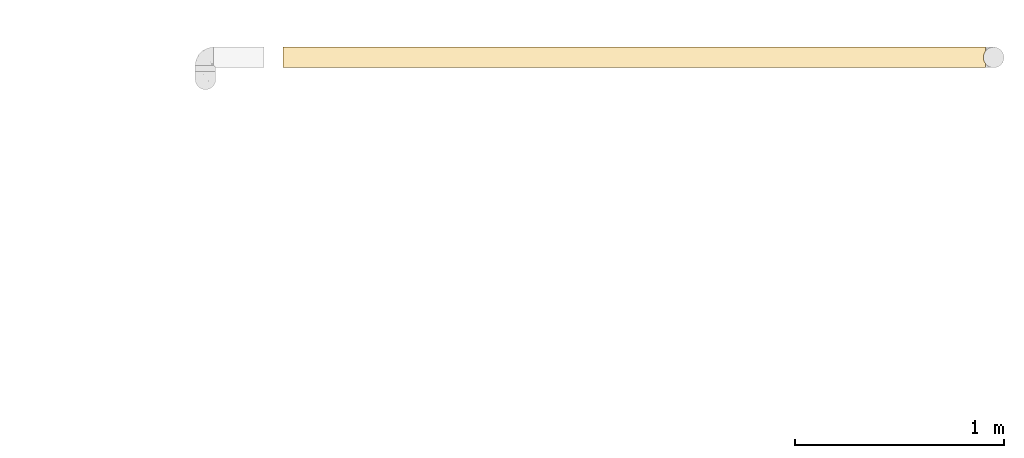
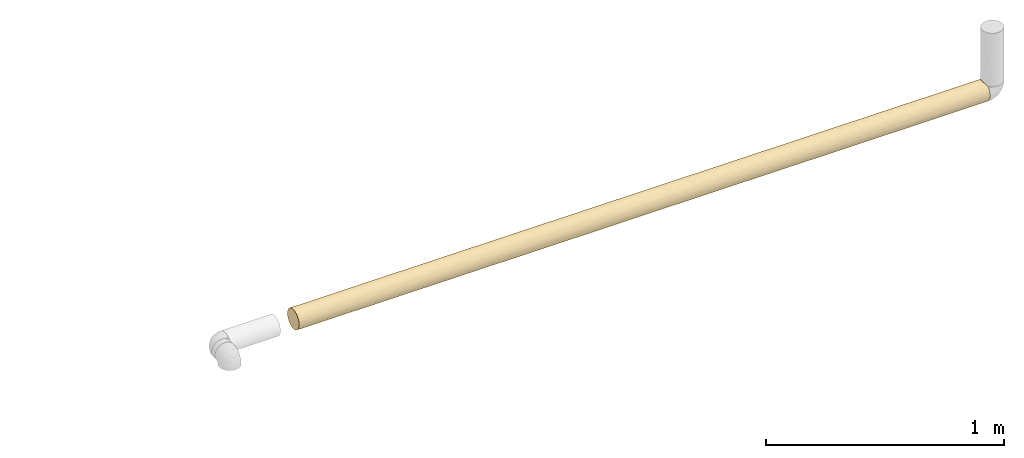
# One storey, part 1 of 6: 1 covering.
"""IFC2X3 building model written with IfcOpenShell, lengths in millimetres."""

from ifc_helpers import new_model, entity, si_unit, converted_unit, derived_unit, direction, frame, origin, place, context, subcontext, project, spatial, faceted_brep, material, element, save


model = new_model("IFC2X3")

# Units and contexts
model_context = context("Model", 3, precision=0.01, world=origin(), true_north=direction((6.123031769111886e-17, 1.0)))
body_context = subcontext(model_context, "Body", "Model", "MODEL_VIEW")
ifc_project = project(units=[si_unit("LENGTHUNIT", "METRE", prefix="MILLI"), si_unit("AREAUNIT", "SQUARE_METRE"), si_unit("VOLUMEUNIT", "CUBIC_METRE"), converted_unit("PLANEANGLEUNIT", "DEGREE", entity("IfcRatioMeasure", 0.017453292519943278), si_unit("PLANEANGLEUNIT", "RADIAN"), dimensions=[0, 0, 0, 0, 0, 0, 0]), si_unit("MASSUNIT", "GRAM", prefix="KILO"), derived_unit("MASSDENSITYUNIT", [(si_unit("MASSUNIT", "GRAM", prefix="KILO"), 1), (si_unit("LENGTHUNIT", "METRE"), -3)]), derived_unit("IONCONCENTRATIONUNIT", [(si_unit("MASSUNIT", "GRAM", prefix="KILO"), 1), (si_unit("LENGTHUNIT", "METRE"), -3)]), derived_unit("MOMENTOFINERTIAUNIT", [(si_unit("LENGTHUNIT", "METRE"), 4)]), si_unit("TIMEUNIT", "SECOND"), si_unit("FREQUENCYUNIT", "HERTZ"), si_unit("THERMODYNAMICTEMPERATUREUNIT", "DEGREE_CELSIUS"), derived_unit("THERMALTRANSMITTANCEUNIT", [(si_unit("MASSUNIT", "GRAM", prefix="KILO"), 1), (si_unit("THERMODYNAMICTEMPERATUREUNIT", "KELVIN"), -1), (si_unit("TIMEUNIT", "SECOND"), -3)]), derived_unit("THERMALCONDUCTANCEUNIT", [(si_unit("MASSUNIT", "GRAM", prefix="KILO"), 1), (si_unit("THERMODYNAMICTEMPERATUREUNIT", "KELVIN"), -1), (si_unit("TIMEUNIT", "SECOND"), -3), (si_unit("LENGTHUNIT", "METRE"), 1)]), derived_unit("VOLUMETRICFLOWRATEUNIT", [(si_unit("LENGTHUNIT", "METRE"), 3), (si_unit("TIMEUNIT", "SECOND"), -1)]), derived_unit("MASSFLOWRATEUNIT", [(si_unit("MASSUNIT", "GRAM", prefix="KILO"), 1), (si_unit("TIMEUNIT", "SECOND"), -1)]), derived_unit("ROTATIONALFREQUENCYUNIT", [(si_unit("TIMEUNIT", "SECOND"), -1)]), si_unit("ELECTRICCURRENTUNIT", "AMPERE"), si_unit("ELECTRICVOLTAGEUNIT", "VOLT"), si_unit("POWERUNIT", "WATT"), si_unit("FORCEUNIT", "NEWTON", prefix="KILO"), si_unit("ILLUMINANCEUNIT", "LUX"), si_unit("LUMINOUSFLUXUNIT", "LUMEN"), si_unit("LUMINOUSINTENSITYUNIT", "CANDELA"), derived_unit("USERDEFINED", [(si_unit("MASSUNIT", "GRAM", prefix="KILO"), -1), (si_unit("LENGTHUNIT", "METRE"), -2), (si_unit("TIMEUNIT", "SECOND"), 3), (si_unit("LUMINOUSFLUXUNIT", "LUMEN"), 1)]), derived_unit("USERDEFINED", [(si_unit("MASSUNIT", "GRAM", prefix="KILO"), 1), (si_unit("TIMEUNIT", "SECOND"), -3), (si_unit("LENGTHUNIT", "METRE"), 3), (si_unit("ELECTRICCURRENTUNIT", "AMPERE"), -2)]), derived_unit("SOUNDPOWERUNIT", [(si_unit("MASSUNIT", "GRAM", prefix="KILO"), 1), (si_unit("TIMEUNIT", "SECOND"), -3), (si_unit("LENGTHUNIT", "METRE"), 2)]), derived_unit("SOUNDPRESSUREUNIT", [(si_unit("MASSUNIT", "GRAM", prefix="KILO"), 1), (si_unit("LENGTHUNIT", "METRE"), -1), (si_unit("TIMEUNIT", "SECOND"), -2)]), derived_unit("LINEARVELOCITYUNIT", [(si_unit("LENGTHUNIT", "METRE"), 1), (si_unit("TIMEUNIT", "SECOND"), -1)]), si_unit("PRESSUREUNIT", "PASCAL"), derived_unit("USERDEFINED", [(si_unit("MASSUNIT", "GRAM", prefix="KILO"), 1), (si_unit("LENGTHUNIT", "METRE"), -2), (si_unit("TIMEUNIT", "SECOND"), -2)]), derived_unit("LINEARFORCEUNIT", [(si_unit("MASSUNIT", "GRAM", prefix="KILO"), 1), (si_unit("TIMEUNIT", "SECOND"), -2)]), derived_unit("PLANARFORCEUNIT", [(si_unit("MASSUNIT", "GRAM", prefix="KILO"), 1), (si_unit("LENGTHUNIT", "METRE"), -1), (si_unit("TIMEUNIT", "SECOND"), -2)]), derived_unit("SPECIFICHEATCAPACITYUNIT", [(si_unit("THERMODYNAMICTEMPERATUREUNIT", "KELVIN"), -1), (si_unit("LENGTHUNIT", "METRE"), 2), (si_unit("TIMEUNIT", "SECOND"), -2)]), derived_unit("HEATINGVALUEUNIT", [(si_unit("LENGTHUNIT", "METRE"), 2), (si_unit("TIMEUNIT", "SECOND"), -2)]), derived_unit("VAPORPERMEABILITYUNIT", [(si_unit("LENGTHUNIT", "METRE"), -1), (si_unit("TIMEUNIT", "SECOND"), 1)]), derived_unit("DYNAMICVISCOSITYUNIT", [(si_unit("MASSUNIT", "GRAM", prefix="KILO"), 1), (si_unit("TIMEUNIT", "SECOND"), -1), (si_unit("LENGTHUNIT", "METRE"), -1)]), derived_unit("THERMALEXPANSIONCOEFFICIENTUNIT", [(si_unit("THERMODYNAMICTEMPERATUREUNIT", "KELVIN"), -1)]), derived_unit("MODULUSOFELASTICITYUNIT", [(si_unit("MASSUNIT", "GRAM", prefix="KILO"), 1), (si_unit("LENGTHUNIT", "METRE"), -1), (si_unit("TIMEUNIT", "SECOND"), -2)]), derived_unit("ISOTHERMALMOISTURECAPACITYUNIT", [(si_unit("LENGTHUNIT", "METRE"), 3), (si_unit("MASSUNIT", "GRAM", prefix="KILO"), -1)]), derived_unit("MOISTUREDIFFUSIVITYUNIT", [(si_unit("TIMEUNIT", "SECOND"), -1), (si_unit("LENGTHUNIT", "METRE"), 2)])], contexts=[model_context])

# Site, building, storey
site_placement = place(None, origin())
site = spatial("IfcSite", under=ifc_project, at=site_placement, Name="Default", CompositionType="ELEMENT")
building_placement = place(site_placement, origin())
building = spatial("IfcBuilding", under=site, at=building_placement, CompositionType="ELEMENT")
storey_placement = place(building_placement, frame((0.0, 0.0, 3000.0)))
storey = spatial("IfcBuildingStorey", under=building, at=storey_placement, Name="Niveau 1", CompositionType="ELEMENT", Elevation=3000.0)

# Covering
ifc_material = material(Name="Isolation - Laine minérale")
covering_placement = place(storey_placement, frame((-10002.492284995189, 9976.120352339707, 0.7252722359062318)))
element("IfcCovering", 1, at=covering_placement, inside=storey, material=ifc_material, Name="Isolation des canalisations:Laine minérale", ObjectType="Isolation des canalisations:Laine minérale", PredefinedType="INSULATION", context=body_context, shape_type="Brep", body=[
    faceted_brep([(0.0, 3.2693363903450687, -63.44105192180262), (0.0, 1.5952722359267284, -50.72527223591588), (0.0, 3.2693363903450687, -38.00949255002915), (0.0, 8.177444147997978, -26.160272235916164), (0.0, 15.98511607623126, -15.985116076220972), (0.0, 26.160272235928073, -8.177444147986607), (0.0, 38.00949255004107, -3.26933639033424), (0.0, 50.72527223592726, -1.5952722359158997), (0.0, 63.44105192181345, -3.26933639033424), (0.0, 75.29027223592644, -8.177444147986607), (0.0, 85.46542839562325, -15.985116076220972), (0.0, 93.27310032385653, -26.160272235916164), (0.0, 98.18120808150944, -38.00949255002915), (0.0, 99.85527223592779, -50.72527223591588), (0.0, 98.18120808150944, -63.44105192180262), (0.0, 93.27310032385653, -75.29027223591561), (0.0, 85.46542839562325, -85.4654283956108), (0.0, 75.29027223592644, -93.27310032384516), (0.0, 63.44105192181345, -98.18120808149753), (0.0, 50.72527223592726, -99.85527223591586), (0.0, 38.00949255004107, -98.18120808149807), (0.0, 26.160272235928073, -93.27310032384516), (0.0, 15.98511607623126, -85.4654283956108), (0.0, 8.177444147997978, -75.29027223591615), (3355.3199719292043, 2.7935963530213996, -39.94049838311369), (3355.3199719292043, 1.5952722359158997, -50.72527223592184), (3355.3199719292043, 3.26933639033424, -63.44105192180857), (3355.3199719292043, 8.17744414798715, -75.2902722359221), (3355.3199719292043, 15.98511607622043, -85.46542839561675), (3355.3199719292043, 26.160272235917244, -93.27310032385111), (3355.3199719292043, 38.00949255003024, -98.18120808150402), (3355.3199719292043, 50.72527223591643, -99.85527223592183), (3355.3199719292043, 63.44105192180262, -98.18120808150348), (3355.3199719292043, 75.29027223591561, -93.27310032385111), (3355.3199719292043, 85.46542839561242, -85.46542839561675), (3355.3199719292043, 93.2731003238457, -75.29027223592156), (3355.3199719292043, 98.18120808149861, -63.44105192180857), (3355.3199719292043, 99.85527223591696, -50.72527223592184), (3355.3199719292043, 98.65694811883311, -39.94049838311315), (3355.3199719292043, 95.1273794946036, -29.696487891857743), (3355.3199719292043, 89.43799982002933, -20.47495615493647), (3355.3199719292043, 81.86619226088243, -12.725272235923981), (3355.3199719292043, 19.58435221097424, -12.725272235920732), (3355.3199719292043, 12.01254465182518, -20.47495615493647), (3355.3199719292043, 6.3231649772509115, -29.696487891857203), (3065.9697336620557, 69.52650923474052, -96.11547368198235), (3064.9800468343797, 59.13420623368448, -99.13030016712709), (2773.904925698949, 60.143988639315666, -98.94398936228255), (978.9733141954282, 99.85527223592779, -50.72527223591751), (1397.3733435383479, 99.85527223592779, -50.72527223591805), (1188.1733424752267, 97.30464236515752, -66.34958592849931), (2865.8333270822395, 50.72527223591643, -99.85527223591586), (290.33992685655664, 59.13420622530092, -99.13030016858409), (489.48700988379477, 50.72527223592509, -99.85527223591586), (401.3362836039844, 80.6337211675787, -89.70272190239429), (333.49343664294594, 89.70272176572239, -80.63372134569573), (3021.8265378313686, 89.7027218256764, -80.63372126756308), (289.3502405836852, 69.52650922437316, -96.11547368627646), (1003.874179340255, 89.70272168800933, -80.6337214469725), (821.1346217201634, 80.6091913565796, -89.72153203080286), (668.6838075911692, 88.17974534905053, -82.52023007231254), (634.6935028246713, 69.52650918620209, -96.11547370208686), (2726.01966091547, 91.46149100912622, -78.19011121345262), (2549.099243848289, 80.3586335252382, -89.91227006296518), (2430.212783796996, 89.7027217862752, -80.6337213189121), (1147.1604207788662, 58.59294305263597, -99.2212169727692), (1470.07073874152, 61.86780553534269, -98.57504602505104), (1397.3733925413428, 50.72527223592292, -99.85527223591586), (1886.8600006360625, 99.85527223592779, -50.725272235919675), (2376.346657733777, 99.85527223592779, -50.725272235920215), (2131.603337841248, 97.07500052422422, -67.0182028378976), (3129.391522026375, 96.11547366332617, -69.52650927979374), (895.7155818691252, 63.15690032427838, -98.25643594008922), (581.4150504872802, 60.1439886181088, -98.94398936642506), (257.4865833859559, 96.56234283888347, -68.4091592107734), (439.6289507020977, 98.84644254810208, -60.63031477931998), (2953.9836917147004, 80.63372120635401, -89.7027218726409), (2766.072891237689, 98.94149675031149, -60.156740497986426), (2865.833314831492, 99.85527223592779, -50.725272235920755), (3060.573729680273, 99.09651670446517, -59.32641219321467), (2486.6001453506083, 96.9546160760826, -67.3567083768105), (555.0389737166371, 96.11547355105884, -69.52650955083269), (978.9736547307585, 50.72527223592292, -99.85527223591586), (489.48665709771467, 99.85527223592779, -50.72527223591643), (734.2299968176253, 99.06774857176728, -59.486658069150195), (876.5150569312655, 96.35296013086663, -68.94259908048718), (1360.8343313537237, 92.34595696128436, -76.83035800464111), (1270.9529185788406, 81.03128450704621, -89.39441394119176), (1188.1733337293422, 67.91940767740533, -96.74829480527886), (930.3681902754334, 72.59550230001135, -94.7190210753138), (1886.860009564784, 67.40406406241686, -96.9375520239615), (2298.9596820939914, 70.35568082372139, -95.76307811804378), (2154.683446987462, 59.95129845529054, -98.98122876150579), (1642.1166841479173, 98.06620669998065, -63.862731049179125), (2074.506734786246, 82.12556214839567, -88.51123118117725), (1502.071870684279, 73.22641669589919, -94.39969722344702), (2720.6264742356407, 69.52650919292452, -96.11547369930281), (2835.14320737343, 96.11547365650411, -69.52650929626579), (2073.3731644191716, 91.53080310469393, -78.08702566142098), (1829.1875839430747, 94.98036942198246, -72.06170288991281), (1781.945879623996, 75.83732137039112, -92.9525369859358), (1717.04348332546, 89.66203163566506, -80.68667519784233), (1601.8010644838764, 82.26911567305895, -88.39147514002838), (2463.8279695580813, 61.722486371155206, -98.60865329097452), (2053.518108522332, 74.267762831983, -93.84728559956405), (2376.346682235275, 50.72527223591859, -99.85527223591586), (1886.8600373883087, 50.725272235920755, -99.85527223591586), (1468.4597731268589, 50.72527223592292, -99.85527223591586), (1223.7165899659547, 50.72527223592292, -99.85527223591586), (1957.946476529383, 50.725272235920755, -99.85527223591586), (401.33628266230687, 20.816823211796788, -89.70272183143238), (333.493436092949, 11.74782261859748, -80.63372123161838), (1886.8600087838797, 4.523092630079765, -67.4320223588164), (2290.930083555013, 7.2035959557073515, -73.52046018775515), (2216.516370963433, 2.902995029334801, -61.985232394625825), (3065.9697329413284, 5.335070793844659, -69.52650924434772), (3021.8265367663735, 20.81682320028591, -89.70272182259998), (3109.8148206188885, 31.924035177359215, -96.11547365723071), (2773.0356697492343, 41.37336985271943, -98.95699231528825), (3062.930903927, 42.226936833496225, -99.11468425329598), (821.1346213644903, 20.841352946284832, -89.72153190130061), (1223.606970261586, 19.808435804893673, -88.90780914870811), (1003.8741771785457, 11.74782260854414, -80.63372121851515), (2865.8336778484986, 1.5952722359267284, -50.725272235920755), (3064.9800462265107, 2.3202443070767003, -59.13420624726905), (1521.5177220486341, 29.404681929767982, -94.98800293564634), (1223.7166397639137, 33.097391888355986, -96.58391083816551), (1346.0883043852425, 41.76084290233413, -99.03050908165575), (290.33992692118, 42.31633818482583, -99.13030015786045), (2953.9836906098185, 11.747822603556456, -80.63372121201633), (289.3502403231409, 31.9240351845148, -96.11547366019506), (1886.8594184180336, 1.5952722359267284, -50.725272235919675), (1642.1166809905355, 2.3327625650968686, -59.2059507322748), (245.5051515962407, 5.335070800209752, -69.52650925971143), (581.4150507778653, 41.306555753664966, -98.94398934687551), (1397.3731243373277, 1.5952722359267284, -50.72527223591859), (1713.2032957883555, 37.58781333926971, -98.06620667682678), (2773.9049240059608, 2.5065551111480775, -60.14398864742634), (2167.1466423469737, 35.10095871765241, -97.30464242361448), (978.972588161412, 1.5952722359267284, -50.72527223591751), (1188.1733320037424, 4.145902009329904, -66.34958563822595), (582.2843027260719, 2.493552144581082, -60.07717455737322), (489.486294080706, 1.5952722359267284, -50.72527223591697), (292.38906844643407, 2.3358602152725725, -59.22360761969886), (2494.34050614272, 35.681788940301, -97.49546050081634), (2351.4457959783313, 20.816823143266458, -89.7027217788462), (860.9794675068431, 3.95508393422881, -65.76875541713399), (1987.8694025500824, 24.54627055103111, -92.29950428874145), (1930.3528693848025, 12.15344530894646, -81.15504495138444), (668.6838066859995, 13.27079894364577, -82.520229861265), (1479.1402900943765, 9.954909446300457, -78.1394003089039), (1579.254089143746, 5.214250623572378, -69.23213074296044), (634.6935020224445, 31.924035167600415, -96.11547365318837), (555.0389723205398, 5.335070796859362, -69.52650925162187), (2417.0594906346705, 12.926079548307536, -82.10963031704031), (2679.149625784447, 11.050324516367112, -79.70208060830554), (2720.626472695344, 5.33507078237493, -69.52650921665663), (2606.751099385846, 25.082069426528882, -92.63210997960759), (2686.636166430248, 17.317094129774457, -86.74818904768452), (917.7182669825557, 38.42815594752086, -98.29141388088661), (2800.2810004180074, 31.9240351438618, -96.11547364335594), (1626.714532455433, 20.643107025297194, -89.56880755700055), (2502.2328029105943, 3.262957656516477, -63.41722223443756), (2376.3473837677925, 1.5952722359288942, -50.725272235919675), (952.4343114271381, 28.77901771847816, -94.68114570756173), (3099.382022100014, 22.818639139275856, -10.290426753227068), (2881.8507289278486, 30.080678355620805, -6.143239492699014), (2819.8650009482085, 21.753973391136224, -11.046301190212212), (401.336282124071, 11.747822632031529, -20.816823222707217), (333.49343574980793, 20.81682323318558, -11.747822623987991), (1000.7594945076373, 20.816823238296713, -11.747822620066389), (1236.8125979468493, 25.97976318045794, -8.28217289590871), (857.6637407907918, 35.63798798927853, -3.9691950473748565), (289.35023976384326, 5.335070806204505, -31.924035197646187), (2715.7342945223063, 41.8773277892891, -2.398563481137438), (2365.2170119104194, 50.725272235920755, -1.5952722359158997), (2476.3460674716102, 36.141739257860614, -3.8096302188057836), (2554.6419664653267, 3.464931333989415, -37.300776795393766), (3067.374514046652, 8.912806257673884, -24.928478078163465), (2735.2578938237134, 8.91285658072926, -24.92839651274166), (2984.029828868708, 4.275118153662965, -34.720895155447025), (2984.031179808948, 15.584164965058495, -16.39074908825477), (3007.7224478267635, 40.35749234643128, -2.7016734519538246), (3347.0560718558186, 34.19020495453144, -4.461372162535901), (3344.91179952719, 42.33445912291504, -2.3170998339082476), (1566.270211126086, 32.26049852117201, -5.197159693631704), (1515.462620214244, 22.911268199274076, -10.226653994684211), (1907.915831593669, 24.241932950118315, -9.34424227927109), (3350.559780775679, 26.531823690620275, -7.965081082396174), (1386.2440518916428, 50.72527223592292, -1.5952722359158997), (978.9729600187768, 50.72527223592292, -1.5952722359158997), (1182.608331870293, 35.076937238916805, -4.153966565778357), (2473.11590046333, 22.480990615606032, -10.525552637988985), (2658.474036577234, 15.53941150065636, -16.436613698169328), (244.7286202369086, 31.924035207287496, -5.335070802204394), (582.4681096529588, 41.37176491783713, -2.493863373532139), (489.4864800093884, 50.72527223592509, -1.5952722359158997), (292.4640639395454, 42.22366542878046, -2.3364348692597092), (1875.7305319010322, 50.725272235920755, -1.5952722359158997), (1630.9866817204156, 42.38489348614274, -2.308384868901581), (2124.946536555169, 3.120594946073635, -38.57819027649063), (2296.35912600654, 8.205879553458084, -26.11108636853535), (290.3399263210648, 2.3202443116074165, -42.31633819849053), (2363.485843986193, 15.390034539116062, -16.590570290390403), (895.715580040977, 3.1941085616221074, -38.2936440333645), (1147.1604190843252, 2.229327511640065, -42.85760134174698), (1188.1733311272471, 4.70224970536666, -33.53113669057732), (3344.1899719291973, 50.72527223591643, -1.5952722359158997), (2854.703491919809, 50.72527223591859, -1.5952722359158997), (581.4150495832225, 2.5065551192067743, -41.3065557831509), (634.6935007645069, 5.335070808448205, -31.924035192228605), (2072.7072046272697, 16.59750627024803, -15.3833355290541), (2194.4872528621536, 29.111558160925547, -6.604933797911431), (667.1264651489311, 18.8764522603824, -13.316589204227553), (820.4569808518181, 11.720311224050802, -20.85271097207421), (1424.533881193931, 2.9270057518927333, -39.36381893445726), (1608.7562428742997, 12.609778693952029, -19.72581978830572), (1271.443211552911, 12.080426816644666, -20.3882845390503), (1512.8440493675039, 6.649696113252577, -29.020422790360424), (1875.730009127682, 34.2866327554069, -4.427021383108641), (553.646901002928, 31.924035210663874, -5.3350708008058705), (1719.0073248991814, 3.205593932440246, -38.249813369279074), (1855.6203352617, 8.144554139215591, -26.217327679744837), (930.4026079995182, 6.730480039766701, -28.85714109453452), (1258.1133777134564, 18.463806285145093, -13.671868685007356), (2163.005238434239, 39.69488577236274, -2.8495218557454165), (2984.029828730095, 97.17542633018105, -34.72089519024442), (2735.2578934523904, 92.53768792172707, -24.92839656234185), (3063.221708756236, 92.53773807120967, -24.928477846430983), (2984.0311796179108, 85.86637953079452, -16.390749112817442), (2658.4740360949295, 85.91113300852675, -16.436613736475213), (2819.8650007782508, 79.69657112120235, -11.046301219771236), (3344.9117995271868, 59.116085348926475, -2.3170998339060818), (3007.722447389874, 61.093052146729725, -2.7016734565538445), (2554.641967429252, 97.9856131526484, -37.30077684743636), (2072.7072071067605, 84.85303834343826, -15.383335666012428), (2473.115898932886, 78.96955392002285, -10.525552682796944), (2363.485845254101, 86.0605099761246, -16.5905703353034), (439.89826178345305, 60.61985864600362, -2.601950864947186), (634.6935002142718, 96.11547366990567, -31.924035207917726), (289.3502395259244, 96.11547366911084, -31.92403520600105), (401.33628187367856, 89.70272184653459, -20.81682323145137), (1182.6083314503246, 66.3736072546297, -4.1539665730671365), (1534.0069294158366, 62.292490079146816, -2.9763835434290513), (1000.759493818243, 80.63372124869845, -11.74782263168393), (820.4569802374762, 89.73023325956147, -20.85271098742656), (667.1264646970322, 82.57409222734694, -13.316589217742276), (3347.056071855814, 67.26033951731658, -4.461372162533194), (2881.850728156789, 71.3698661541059, -6.14323951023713), (2476.346066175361, 65.30880526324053, -3.809630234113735), (333.4934355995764, 80.63372124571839, -11.747822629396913), (2296.3591271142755, 93.24466498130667, -26.11108647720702), (581.4150489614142, 98.94398935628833, -41.30655580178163), (290.3399259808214, 99.13030016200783, -42.31633820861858), (872.9382921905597, 68.93541248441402, -5.094715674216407), (1236.8125972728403, 75.4707813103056, -8.282172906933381), (257.3956124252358, 68.34787730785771, -4.8646061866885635), (3099.3820219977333, 78.63190535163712, -10.290426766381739), (3350.5597807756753, 74.91872078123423, -7.965081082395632), (895.7155803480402, 98.25643591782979, -38.2936440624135), (2715.734293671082, 59.573216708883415, -2.3985634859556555), (734.2299817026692, 59.50152034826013, -2.3854918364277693), (930.4026082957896, 94.72006443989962, -28.857141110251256), (1271.4432097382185, 89.37011765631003, -20.38828454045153), (1188.1733319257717, 96.74829476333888, -33.53113668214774), (1147.1604203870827, 99.22121696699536, -42.857601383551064), (1515.4626192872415, 78.53927629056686, -10.226654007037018), (1456.9225709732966, 70.67207207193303, -5.826696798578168), (1506.4099593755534, 94.266734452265, -27.967900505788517), (1875.7300084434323, 67.16391173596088, -4.427021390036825), (553.6469007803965, 69.52650927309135, -5.335070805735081), (2178.3637554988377, 67.02604756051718, -4.378302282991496), (1855.6203378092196, 93.30599039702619, -26.21732779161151), (2124.9465392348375, 98.32994955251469, -38.57819038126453), (1799.5951107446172, 81.46295119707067, -12.398362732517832), (2067.5727634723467, 75.72187894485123, -8.429568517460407), (1642.1166823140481, 98.27249868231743, -38.35522141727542), (1628.1481454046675, 87.63166073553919, -18.295727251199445), (1293.5753430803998, 82.92856625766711, -13.621300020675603)], [[[0, 1, 2, 3, 4, 5, 6, 7, 8, 9, 10, 11, 12, 13, 14, 15, 16, 17, 18, 19, 20, 21, 22, 23]], [[24, 25, 26, 27, 28, 29, 30, 31, 32, 33, 34, 35, 36, 37, 38, 39, 40, 41, 42, 43, 44]], [[45, 46, 47]], [[48, 49, 50]], [[33, 32, 45]], [[31, 51, 46]], [[19, 52, 53]], [[54, 16, 55]], [[35, 34, 56]], [[52, 18, 57]], [[58, 59, 60]], [[61, 57, 54]], [[18, 17, 57]], [[62, 63, 64]], [[65, 66, 67]], [[68, 69, 70]], [[71, 36, 35]], [[72, 73, 61]], [[73, 53, 52]], [[74, 14, 75]], [[76, 56, 34]], [[33, 76, 34]], [[77, 78, 79]], [[69, 77, 80]], [[74, 75, 81]], [[54, 17, 16]], [[33, 45, 76]], [[72, 65, 82]], [[13, 83, 75]], [[83, 84, 75]], [[84, 50, 85]], [[80, 64, 70]], [[36, 71, 79]], [[54, 59, 61]], [[58, 50, 86]], [[87, 88, 89]], [[90, 91, 92]], [[49, 68, 93]], [[84, 85, 81]], [[94, 64, 63]], [[66, 88, 95]], [[63, 76, 96]], [[45, 47, 96]], [[56, 62, 97]], [[16, 15, 55]], [[18, 52, 19]], [[55, 60, 54]], [[93, 50, 49]], [[48, 84, 83]], [[36, 79, 37]], [[64, 98, 70]], [[86, 93, 99]], [[76, 63, 62]], [[71, 56, 97]], [[74, 55, 15]], [[81, 85, 60]], [[87, 59, 58]], [[72, 89, 88]], [[86, 87, 58]], [[95, 100, 90]], [[68, 70, 93]], [[70, 98, 99]], [[46, 45, 32]], [[76, 45, 96]], [[54, 57, 17]], [[73, 52, 57]], [[96, 91, 63]], [[94, 101, 98]], [[91, 94, 63]], [[95, 102, 100]], [[96, 47, 103]], [[90, 100, 104]], [[31, 46, 32]], [[46, 51, 47]], [[73, 57, 61]], [[51, 105, 47]], [[82, 53, 73]], [[66, 106, 107, 67]], [[59, 89, 61]], [[65, 72, 88]], [[82, 73, 72]], [[61, 89, 72]], [[87, 89, 59]], [[66, 65, 88]], [[65, 67, 108, 82]], [[95, 88, 87]], [[66, 90, 106]], [[95, 87, 102]], [[90, 66, 95]], [[86, 102, 87]], [[94, 102, 101]], [[102, 94, 100]], [[90, 104, 91]], [[100, 94, 104]], [[94, 91, 104]], [[50, 84, 48]], [[75, 84, 81]], [[50, 58, 85]], [[60, 85, 58]], [[103, 105, 92]], [[92, 106, 90]], [[13, 75, 14]], [[55, 74, 81]], [[15, 14, 74]], [[103, 92, 91]], [[92, 105, 109, 106]], [[96, 103, 91]], [[105, 103, 47]], [[54, 60, 59]], [[81, 60, 55]], [[56, 71, 35]], [[97, 77, 79]], [[97, 79, 71]], [[37, 79, 78]], [[80, 77, 97]], [[69, 78, 77]], [[80, 97, 62]], [[69, 80, 70]], [[93, 86, 50]], [[86, 101, 102]], [[94, 98, 64]], [[99, 98, 101]], [[86, 99, 101]], [[70, 99, 93]], [[62, 56, 76]], [[80, 62, 64]], [[110, 111, 22]], [[112, 113, 114]], [[21, 110, 22]], [[115, 27, 26]], [[28, 116, 29]], [[117, 30, 29]], [[118, 51, 119]], [[120, 121, 122]], [[25, 123, 124]], [[125, 126, 127]], [[19, 53, 128]], [[27, 129, 28]], [[20, 130, 21]], [[129, 116, 28]], [[112, 131, 132]], [[133, 0, 23]], [[130, 128, 134]], [[135, 132, 131]], [[136, 107, 106, 109]], [[115, 124, 137]], [[23, 22, 111]], [[21, 130, 110]], [[27, 115, 129]], [[109, 105, 138]], [[135, 139, 140]], [[141, 142, 143]], [[144, 145, 138]], [[30, 117, 119]], [[146, 122, 140]], [[0, 133, 143]], [[105, 118, 144]], [[147, 138, 145]], [[112, 148, 113]], [[149, 120, 122]], [[139, 141, 146]], [[122, 121, 150]], [[122, 150, 140]], [[148, 112, 151]], [[120, 110, 152]], [[130, 134, 152]], [[149, 153, 111]], [[113, 154, 155]], [[115, 137, 156]], [[157, 116, 158]], [[82, 108, 159]], [[30, 119, 31]], [[0, 143, 1]], [[138, 136, 109]], [[159, 152, 134]], [[110, 120, 149]], [[133, 111, 153]], [[129, 115, 156]], [[158, 116, 129]], [[117, 116, 160]], [[110, 130, 152]], [[148, 150, 161]], [[132, 151, 112]], [[147, 148, 161]], [[158, 154, 145]], [[154, 148, 145]], [[162, 163, 114]], [[164, 152, 159]], [[126, 125, 121]], [[121, 120, 164]], [[150, 121, 161]], [[136, 138, 147]], [[126, 159, 127]], [[155, 154, 158]], [[157, 158, 145]], [[128, 130, 20]], [[124, 115, 26]], [[19, 128, 20]], [[128, 53, 134]], [[25, 124, 26]], [[124, 123, 137]], [[53, 82, 134]], [[159, 126, 164]], [[134, 82, 159]], [[127, 108, 67, 107]], [[123, 163, 137]], [[114, 131, 112]], [[158, 129, 155]], [[148, 154, 113]], [[108, 127, 159]], [[107, 136, 127]], [[125, 127, 136]], [[121, 164, 126]], [[152, 164, 120]], [[129, 156, 155]], [[113, 155, 156]], [[116, 117, 29]], [[160, 118, 119]], [[160, 119, 117]], [[31, 119, 51]], [[144, 118, 160]], [[105, 51, 118]], [[144, 160, 157]], [[105, 144, 138]], [[111, 133, 23]], [[153, 141, 143]], [[153, 143, 133]], [[1, 143, 142]], [[146, 141, 153]], [[139, 142, 141]], [[122, 146, 153]], [[139, 146, 140]], [[156, 137, 162]], [[135, 140, 132]], [[151, 140, 150]], [[140, 151, 132]], [[148, 151, 150]], [[144, 157, 145]], [[116, 157, 160]], [[113, 156, 162]], [[131, 114, 163]], [[163, 162, 137]], [[113, 162, 114]], [[153, 149, 122]], [[110, 149, 111]], [[148, 147, 145]], [[147, 161, 125]], [[147, 125, 136]], [[121, 125, 161]], [[165, 166, 167]], [[168, 169, 4]], [[170, 171, 172]], [[2, 173, 3]], [[174, 175, 176]], [[163, 123, 177]], [[178, 179, 180]], [[181, 43, 42]], [[43, 181, 178]], [[182, 183, 184]], [[168, 3, 173]], [[185, 186, 187]], [[166, 188, 183]], [[189, 190, 191]], [[176, 192, 166]], [[193, 179, 181]], [[194, 6, 5]], [[180, 24, 44]], [[195, 196, 197]], [[198, 189, 199]], [[200, 177, 201]], [[1, 142, 202]], [[193, 192, 203]], [[4, 169, 5]], [[204, 205, 206]], [[207, 208, 182]], [[123, 25, 24]], [[207, 182, 184]], [[209, 204, 210]], [[173, 202, 209]], [[3, 168, 4]], [[44, 178, 180]], [[180, 177, 123]], [[6, 194, 197]], [[187, 211, 212]], [[213, 214, 170]], [[206, 205, 215]], [[216, 217, 218]], [[165, 42, 188]], [[167, 192, 193]], [[180, 179, 177]], [[123, 24, 180]], [[190, 195, 172]], [[199, 185, 219]], [[172, 171, 191]], [[176, 212, 192]], [[214, 168, 210]], [[173, 209, 210]], [[213, 220, 169]], [[221, 131, 200]], [[6, 197, 7]], [[179, 201, 177]], [[217, 170, 214]], [[177, 200, 163]], [[211, 222, 201]], [[168, 214, 213]], [[194, 169, 220]], [[179, 193, 203]], [[222, 221, 200]], [[211, 192, 212]], [[211, 187, 216]], [[222, 200, 201]], [[163, 200, 131]], [[223, 210, 204]], [[214, 223, 217]], [[206, 215, 218]], [[170, 224, 171]], [[221, 222, 218]], [[135, 131, 221]], [[166, 182, 174]], [[225, 212, 176]], [[202, 173, 2]], [[168, 173, 210]], [[1, 202, 2]], [[202, 142, 209]], [[142, 139, 209]], [[204, 206, 223]], [[209, 139, 204]], [[205, 204, 139]], [[217, 223, 206]], [[210, 223, 214]], [[216, 218, 222]], [[217, 206, 218]], [[211, 216, 222]], [[224, 216, 186]], [[139, 135, 205]], [[215, 135, 221]], [[135, 215, 205]], [[218, 215, 221]], [[169, 194, 5]], [[220, 195, 197]], [[220, 197, 194]], [[7, 197, 196]], [[172, 195, 220]], [[190, 196, 195]], [[170, 172, 220]], [[190, 172, 191]], [[43, 178, 44]], [[179, 178, 181]], [[220, 213, 170]], [[168, 213, 169]], [[167, 193, 181]], [[192, 211, 203]], [[211, 201, 203]], [[179, 203, 201]], [[181, 42, 165]], [[192, 167, 166]], [[166, 165, 188]], [[181, 165, 167]], [[225, 219, 212]], [[212, 219, 187]], [[225, 198, 219]], [[191, 199, 189]], [[219, 198, 199]], [[176, 175, 225]], [[198, 225, 175]], [[185, 187, 219]], [[216, 187, 186]], [[199, 191, 185]], [[171, 185, 191]], [[174, 182, 208]], [[183, 182, 166]], [[175, 174, 208]], [[166, 174, 176]], [[224, 170, 217]], [[185, 171, 186]], [[216, 224, 217]], [[186, 171, 224]], [[226, 227, 228]], [[229, 41, 40]], [[229, 230, 231]], [[207, 232, 233]], [[78, 234, 226]], [[235, 236, 237]], [[39, 38, 226]], [[7, 196, 238]], [[39, 228, 40]], [[239, 240, 241]], [[189, 242, 190]], [[243, 242, 189]], [[241, 11, 10]], [[244, 245, 246]], [[233, 247, 248]], [[249, 248, 236]], [[250, 241, 10]], [[251, 227, 234]], [[12, 11, 240]], [[252, 83, 253]], [[254, 255, 244]], [[256, 8, 238]], [[231, 257, 229]], [[248, 247, 258]], [[252, 239, 259]], [[253, 12, 240]], [[260, 208, 233]], [[196, 261, 238]], [[233, 208, 207]], [[234, 227, 226]], [[262, 263, 264]], [[229, 228, 227]], [[38, 37, 78]], [[261, 242, 254]], [[265, 48, 259]], [[266, 255, 267]], [[245, 239, 241]], [[263, 268, 264]], [[230, 229, 227]], [[257, 258, 41]], [[38, 78, 226]], [[234, 78, 69]], [[243, 198, 269]], [[261, 254, 270]], [[271, 175, 249]], [[237, 236, 230]], [[10, 9, 250]], [[12, 253, 13]], [[250, 246, 241]], [[272, 251, 273]], [[190, 261, 196]], [[273, 69, 68]], [[274, 275, 235]], [[49, 276, 68]], [[272, 276, 268]], [[256, 250, 9]], [[270, 254, 246]], [[273, 251, 234]], [[251, 272, 235]], [[277, 235, 272]], [[235, 277, 274]], [[69, 273, 234]], [[273, 68, 276]], [[276, 49, 265]], [[273, 276, 272]], [[263, 245, 244]], [[259, 262, 264]], [[278, 244, 255]], [[268, 277, 272]], [[236, 275, 271]], [[260, 175, 208]], [[241, 240, 11]], [[252, 253, 240]], [[252, 240, 239]], [[13, 253, 83]], [[245, 262, 239]], [[48, 83, 252]], [[265, 259, 264]], [[48, 252, 259]], [[239, 262, 259]], [[263, 262, 245]], [[276, 265, 264]], [[49, 48, 265]], [[242, 261, 190]], [[238, 261, 270]], [[255, 254, 242]], [[246, 254, 244]], [[256, 238, 270]], [[7, 238, 8]], [[250, 256, 270]], [[9, 8, 256]], [[40, 228, 229]], [[39, 226, 228]], [[241, 246, 245]], [[270, 246, 250]], [[237, 227, 251]], [[231, 236, 248]], [[227, 237, 230]], [[251, 235, 237]], [[236, 231, 230]], [[257, 248, 258]], [[229, 257, 41]], [[248, 257, 231]], [[264, 268, 276]], [[277, 268, 263]], [[278, 277, 263]], [[277, 266, 274]], [[266, 269, 274]], [[275, 274, 269]], [[271, 275, 269]], [[236, 235, 275]], [[271, 269, 198]], [[236, 271, 249]], [[247, 233, 232]], [[260, 248, 249]], [[248, 260, 233]], [[175, 260, 249]], [[198, 175, 271]], [[267, 242, 243]], [[278, 255, 266]], [[277, 278, 266]], [[244, 278, 263]], [[198, 243, 189]], [[267, 269, 266]], [[242, 267, 255]], [[269, 267, 243]], [[207, 184, 183, 188, 42, 41, 258, 247, 232]]]),
])

save(model, "model.ifc")
